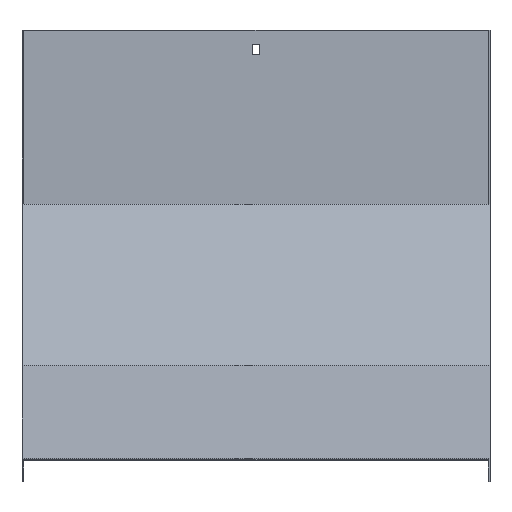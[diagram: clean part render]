
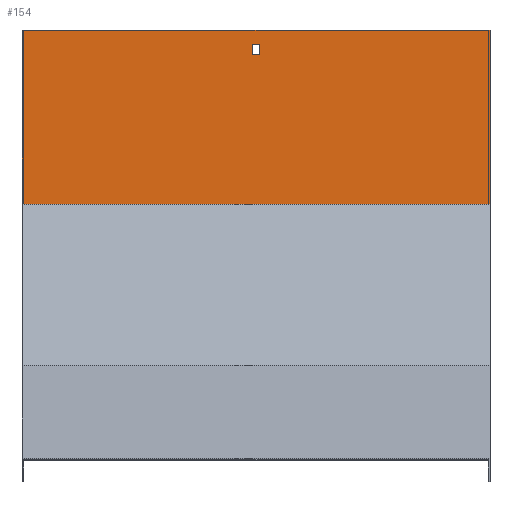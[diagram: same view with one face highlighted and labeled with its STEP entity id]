
A CAD part, top view. The second image highlights one B-rep face of the part: STEP entity #154.
In plain terms, the highlighted planar face has unit normal (0, 0, 1).
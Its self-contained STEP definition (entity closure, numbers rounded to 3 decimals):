
#47 = EDGE_CURVE ( 'NONE', #230, #117, #848, .T. ) ;
#50 = LINE ( 'NONE', #871, #516 ) ;
#60 = CARTESIAN_POINT ( 'NONE',  ( 201.5, 219.247, -368.947 ) ) ;
#68 = VERTEX_POINT ( 'NONE', #927 ) ;
#91 = CARTESIAN_POINT ( 'NONE',  ( -3.25, 347.947, -368.947 ) ) ;
#95 = LINE ( 'NONE', #91, #150 ) ;
#105 = CARTESIAN_POINT ( 'NONE',  ( 201.5, 219.247, -368.947 ) ) ;
#111 = CARTESIAN_POINT ( 'NONE',  ( -201.5, 219.247, -368.947 ) ) ;
#117 = VERTEX_POINT ( 'NONE', #111 ) ;
#123 = CARTESIAN_POINT ( 'NONE',  ( 3.25, 347.947, -368.947 ) ) ;
#145 = CARTESIAN_POINT ( 'NONE',  ( -3.25, 347.947, -368.947 ) ) ;
#150 = VECTOR ( 'NONE', #396, 1000. ) ;
#154 = ADVANCED_FACE ( 'NONE', ( #279, #446 ), #433, .T. ) ;
#156 = VECTOR ( 'NONE', #970, 1000. ) ;
#166 = ORIENTED_EDGE ( 'NONE', *, *, #704, .F. ) ;
#183 = CARTESIAN_POINT ( 'NONE',  ( 201.5, 219.247, -368.947 ) ) ;
#194 = ORIENTED_EDGE ( 'NONE', *, *, #47, .F. ) ;
#226 = DIRECTION ( 'NONE',  ( 1., 0., 0. ) ) ;
#227 = VECTOR ( 'NONE', #472, 1000. ) ;
#230 = VERTEX_POINT ( 'NONE', #506 ) ;
#245 = EDGE_LOOP ( 'NONE', ( #960, #166, #982, #686 ) ) ;
#259 = VECTOR ( 'NONE', #720, 1000. ) ;
#279 = FACE_BOUND ( 'NONE', #245, .T. ) ;
#318 = VERTEX_POINT ( 'NONE', #145 ) ;
#352 = CARTESIAN_POINT ( 'NONE',  ( 201.5, 368.947, -368.947 ) ) ;
#362 = LINE ( 'NONE', #674, #156 ) ;
#389 = LINE ( 'NONE', #105, #501 ) ;
#396 = DIRECTION ( 'NONE',  ( 0., -1., 0. ) ) ;
#402 = DIRECTION ( 'NONE',  ( -1., 0., 0. ) ) ;
#404 = EDGE_CURVE ( 'NONE', #583, #855, #770, .T. ) ;
#415 = EDGE_CURVE ( 'NONE', #577, #318, #95, .T. ) ;
#433 = PLANE ( 'NONE',  #739 ) ;
#435 = EDGE_CURVE ( 'NONE', #230, #583, #389, .T. ) ;
#446 = FACE_OUTER_BOUND ( 'NONE', #738, .T. ) ;
#455 = CARTESIAN_POINT ( 'NONE',  ( 3.25, 347.947, -368.947 ) ) ;
#472 = DIRECTION ( 'NONE',  ( -1., 0., 0. ) ) ;
#501 = VECTOR ( 'NONE', #640, 1000. ) ;
#506 = CARTESIAN_POINT ( 'NONE',  ( 201.5, 219.247, -368.947 ) ) ;
#513 = ORIENTED_EDGE ( 'NONE', *, *, #826, .F. ) ;
#516 = VECTOR ( 'NONE', #575, 1000. ) ;
#524 = ORIENTED_EDGE ( 'NONE', *, *, #404, .T. ) ;
#538 = EDGE_CURVE ( 'NONE', #544, #68, #731, .T. ) ;
#543 = CARTESIAN_POINT ( 'NONE',  ( -201.5, 368.947, -368.947 ) ) ;
#544 = VERTEX_POINT ( 'NONE', #875 ) ;
#550 = EDGE_CURVE ( 'NONE', #68, #577, #50, .T. ) ;
#575 = DIRECTION ( 'NONE',  ( -1., 0., 0. ) ) ;
#577 = VERTEX_POINT ( 'NONE', #651 ) ;
#583 = VERTEX_POINT ( 'NONE', #352 ) ;
#640 = DIRECTION ( 'NONE',  ( 0., 1., 0. ) ) ;
#651 = CARTESIAN_POINT ( 'NONE',  ( -3.25, 356.947, -368.947 ) ) ;
#674 = CARTESIAN_POINT ( 'NONE',  ( -201.5, 219.247, -368.947 ) ) ;
#675 = VECTOR ( 'NONE', #402, 1000. ) ;
#686 = ORIENTED_EDGE ( 'NONE', *, *, #550, .F. ) ;
#704 = EDGE_CURVE ( 'NONE', #318, #544, #953, .T. ) ;
#720 = DIRECTION ( 'NONE',  ( 0., 1., 0. ) ) ;
#731 = LINE ( 'NONE', #123, #259 ) ;
#738 = EDGE_LOOP ( 'NONE', ( #513, #194, #850, #524 ) ) ;
#739 = AXIS2_PLACEMENT_3D ( 'NONE', #60, #969, #808 ) ;
#770 = LINE ( 'NONE', #780, #227 ) ;
#780 = CARTESIAN_POINT ( 'NONE',  ( 201.5, 368.947, -368.947 ) ) ;
#808 = DIRECTION ( 'NONE',  ( 0., -1., 0. ) ) ;
#826 = EDGE_CURVE ( 'NONE', #117, #855, #362, .T. ) ;
#848 = LINE ( 'NONE', #183, #675 ) ;
#850 = ORIENTED_EDGE ( 'NONE', *, *, #435, .T. ) ;
#855 = VERTEX_POINT ( 'NONE', #543 ) ;
#871 = CARTESIAN_POINT ( 'NONE',  ( 3.25, 356.947, -368.947 ) ) ;
#875 = CARTESIAN_POINT ( 'NONE',  ( 3.25, 347.947, -368.947 ) ) ;
#927 = CARTESIAN_POINT ( 'NONE',  ( 3.25, 356.947, -368.947 ) ) ;
#953 = LINE ( 'NONE', #455, #981 ) ;
#960 = ORIENTED_EDGE ( 'NONE', *, *, #538, .F. ) ;
#969 = DIRECTION ( 'NONE',  ( 0., 0., 1. ) ) ;
#970 = DIRECTION ( 'NONE',  ( 0., 1., 0. ) ) ;
#981 = VECTOR ( 'NONE', #226, 1000. ) ;
#982 = ORIENTED_EDGE ( 'NONE', *, *, #415, .F. ) ;
